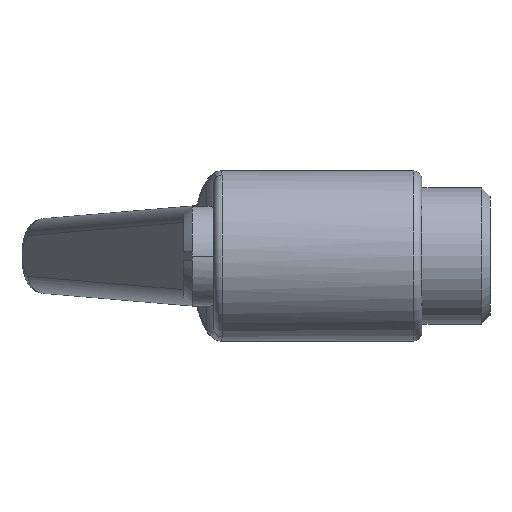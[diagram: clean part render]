
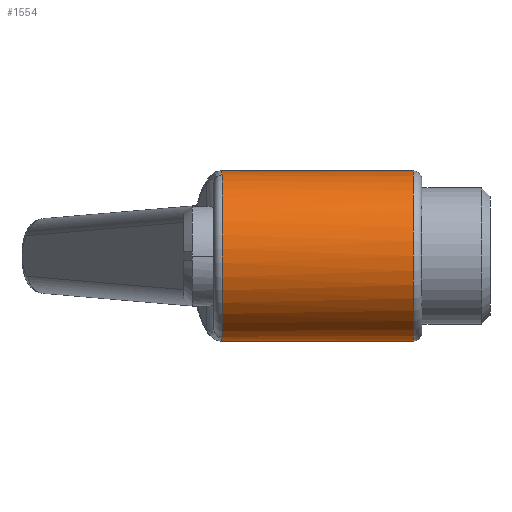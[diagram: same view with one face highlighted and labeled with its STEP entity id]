
A CAD part, left-side view. The second image highlights one B-rep face of the part: STEP entity #1554.
In plain terms, the highlighted cylindrical face has radius 10 mm (diameter 20 mm), a partial arc.
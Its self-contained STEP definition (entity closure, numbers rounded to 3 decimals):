
#22 = CARTESIAN_POINT ( 'NONE',  ( -2.67, -1., -9.653 ) ) ;
#28 = CARTESIAN_POINT ( 'NONE',  ( -3.188, -1., -9.478 ) ) ;
#40 = CARTESIAN_POINT ( 'NONE',  ( 0., -0.803, 10. ) ) ;
#42 = CYLINDRICAL_SURFACE ( 'NONE', #46, 10. ) ;
#46 = AXIS2_PLACEMENT_3D ( 'NONE', #1511, #1668, #217 ) ;
#47 = DIRECTION ( 'NONE',  ( 0., -1., 0. ) ) ;
#60 = FACE_OUTER_BOUND ( 'NONE', #901, .T. ) ;
#187 = CARTESIAN_POINT ( 'NONE',  ( -1.082, -0.92, -9.956 ) ) ;
#217 = DIRECTION ( 'NONE',  ( 0., 0., -1. ) ) ;
#266 = AXIS2_PLACEMENT_3D ( 'NONE', #325, #1444, #485 ) ;
#281 = ORIENTED_EDGE ( 'NONE', *, *, #1929, .T. ) ;
#285 = LINE ( 'NONE', #534, #292 ) ;
#292 = VECTOR ( 'NONE', #47, 1000. ) ;
#312 = EDGE_CURVE ( 'NONE', #674, #827, #535, .T. ) ;
#325 = CARTESIAN_POINT ( 'NONE',  ( 0., -1., 0. ) ) ;
#339 = EDGE_CURVE ( 'NONE', #693, #1550, #341, .T. ) ;
#341 = B_SPLINE_CURVE_WITH_KNOTS ( 'NONE', 3,
 ( #28, #22, #507, #187, #1320, #355 ),
 .UNSPECIFIED., .F., .F.,
 ( 4, 2, 4 ),
 ( 0., 0.002, 0.003 ),
 .UNSPECIFIED. ) ;
#355 = CARTESIAN_POINT ( 'NONE',  ( 0., -0.803, -10. ) ) ;
#369 = CARTESIAN_POINT ( 'NONE',  ( -3.188, -1., 9.478 ) ) ;
#373 = EDGE_CURVE ( 'NONE', #993, #827, #510, .T. ) ;
#485 = DIRECTION ( 'NONE',  ( 0., 0., -1. ) ) ;
#507 = CARTESIAN_POINT ( 'NONE',  ( -2.145, -0.984, -9.782 ) ) ;
#510 = CIRCLE ( 'NONE', #1387, 10. ) ;
#518 = VECTOR ( 'NONE', #1477, 1000. ) ;
#534 = CARTESIAN_POINT ( 'NONE',  ( 0., 24.5, -10. ) ) ;
#535 = LINE ( 'NONE', #1629, #518 ) ;
#536 = CARTESIAN_POINT ( 'NONE',  ( 0., -23.5, 0. ) ) ;
#577 = B_SPLINE_CURVE_WITH_KNOTS ( 'NONE', 3,
 ( #40, #1005, #1331, #369 ),
 .UNSPECIFIED., .F., .F.,
 ( 4, 4 ),
 ( 0.003, 0.007 ),
 .UNSPECIFIED. ) ;
#674 = VERTEX_POINT ( 'NONE', #1820 ) ;
#687 = DIRECTION ( 'NONE',  ( 0., 0., 1. ) ) ;
#693 = VERTEX_POINT ( 'NONE', #1758 ) ;
#722 = CARTESIAN_POINT ( 'NONE',  ( 0., -23.5, -10. ) ) ;
#827 = VERTEX_POINT ( 'NONE', #1465 ) ;
#901 = EDGE_LOOP ( 'NONE', ( #1172, #1178, #281, #1191, #1195, #1197 ) ) ;
#954 = EDGE_CURVE ( 'NONE', #1550, #993, #285, .T. ) ;
#993 = VERTEX_POINT ( 'NONE', #722 ) ;
#1005 = CARTESIAN_POINT ( 'NONE',  ( -1.084, -0.938, 10. ) ) ;
#1172 = ORIENTED_EDGE ( 'NONE', *, *, #312, .F. ) ;
#1178 = ORIENTED_EDGE ( 'NONE', *, *, #1628, .T. ) ;
#1191 = ORIENTED_EDGE ( 'NONE', *, *, #339, .T. ) ;
#1195 = ORIENTED_EDGE ( 'NONE', *, *, #954, .T. ) ;
#1197 = ORIENTED_EDGE ( 'NONE', *, *, #373, .T. ) ;
#1298 = CARTESIAN_POINT ( 'NONE',  ( -3.188, -1., 9.478 ) ) ;
#1320 = CARTESIAN_POINT ( 'NONE',  ( -0.542, -0.87, -10. ) ) ;
#1331 = CARTESIAN_POINT ( 'NONE',  ( -2.147, -1., 9.828 ) ) ;
#1387 = AXIS2_PLACEMENT_3D ( 'NONE', #536, #1657, #687 ) ;
#1444 = DIRECTION ( 'NONE',  ( 0., -1., 0. ) ) ;
#1465 = CARTESIAN_POINT ( 'NONE',  ( 0., -23.5, 10. ) ) ;
#1477 = DIRECTION ( 'NONE',  ( 0., -1., 0. ) ) ;
#1511 = CARTESIAN_POINT ( 'NONE',  ( 0., 24.5, 0. ) ) ;
#1550 = VERTEX_POINT ( 'NONE', #1659 ) ;
#1554 = ADVANCED_FACE ( 'NONE', ( #60 ), #42, .T. ) ;
#1628 = EDGE_CURVE ( 'NONE', #674, #2004, #577, .T. ) ;
#1629 = CARTESIAN_POINT ( 'NONE',  ( 0., 24.5, 10. ) ) ;
#1657 = DIRECTION ( 'NONE',  ( 0., 1., 0. ) ) ;
#1659 = CARTESIAN_POINT ( 'NONE',  ( 0., -0.803, -10. ) ) ;
#1668 = DIRECTION ( 'NONE',  ( 0., -1., 0. ) ) ;
#1758 = CARTESIAN_POINT ( 'NONE',  ( -3.188, -1., -9.478 ) ) ;
#1820 = CARTESIAN_POINT ( 'NONE',  ( 0., -0.803, 10. ) ) ;
#1929 = EDGE_CURVE ( 'NONE', #2004, #693, #2072, .T. ) ;
#2004 = VERTEX_POINT ( 'NONE', #1298 ) ;
#2072 = CIRCLE ( 'NONE', #266, 10. ) ;
